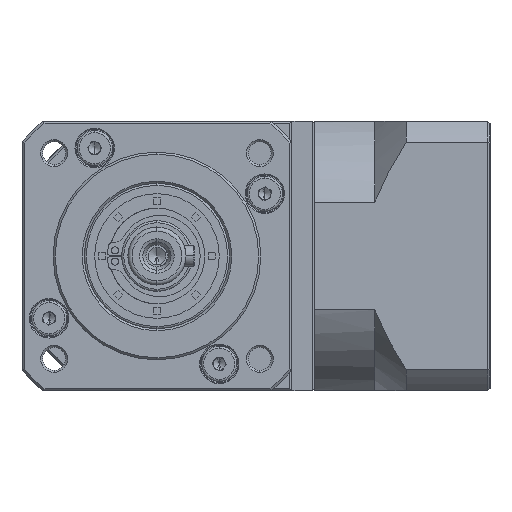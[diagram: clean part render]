
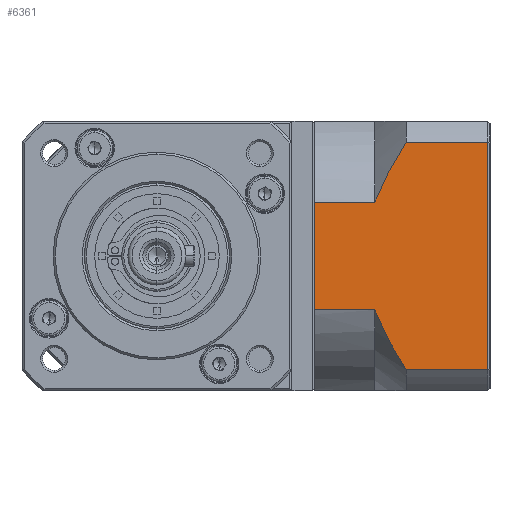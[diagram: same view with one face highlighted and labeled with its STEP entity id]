
A CAD part, left-side view. The second image highlights one B-rep face of the part: STEP entity #6361.
In plain terms, the highlighted planar face has unit normal (-1, 0, 0).
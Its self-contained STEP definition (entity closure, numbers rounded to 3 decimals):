
#1008 = PLANE ( 'NONE',  #156267 ) ;
#3505 = CARTESIAN_POINT ( 'NONE',  ( -9.591, -71.321, -142.833 ) ) ;
#5725 = DIRECTION ( 'NONE',  ( 0., 1., 0. ) ) ;
#6250 = DIRECTION ( 'NONE',  ( 1., 0., 0. ) ) ;
#6361 = ADVANCED_FACE ( 'NONE', ( #61652 ), #1008, .F. ) ;
#9164 = ORIENTED_EDGE ( 'NONE', *, *, #102245, .F. ) ;
#9384 = ORIENTED_EDGE ( 'NONE', *, *, #23752, .T. ) ;
#11514 = VERTEX_POINT ( 'NONE', #74486 ) ;
#19139 = CARTESIAN_POINT ( 'NONE',  ( -9.591, -98.283, -101.814 ) ) ;
#20305 = ORIENTED_EDGE ( 'NONE', *, *, #45740, .T. ) ;
#20426 = CARTESIAN_POINT ( 'NONE',  ( -9.591, -75.75, -106.438 ) ) ;
#23752 = EDGE_CURVE ( 'NONE', #63790, #148828, #33549, .T. ) ;
#29154 = CARTESIAN_POINT ( 'NONE',  ( -9.591, -78.583, -101.814 ) ) ;
#29298 = CARTESIAN_POINT ( 'NONE',  ( -9.591, -71.083, -142.19 ) ) ;
#29613 = LINE ( 'NONE', #94843, #93884 ) ;
#30135 = VECTOR ( 'NONE', #67531, 1000. ) ;
#31062 = DIRECTION ( 'NONE',  ( 0., 1., 0. ) ) ;
#33338 = CARTESIAN_POINT ( 'NONE',  ( -9.591, -73.17, -111.22 ) ) ;
#33429 = CARTESIAN_POINT ( 'NONE',  ( -9.591, -56.583, -116.21 ) ) ;
#33549 = B_SPLINE_CURVE_WITH_KNOTS ( 'NONE', 3,
 ( #29298, #3505, #119118, #42226, #132022, #55064, #145008, #67983, #158006, #80910 ),
 .UNSPECIFIED., .F., .F.,
 ( 4, 2, 2, 2, 4 ),
 ( 0.101, 0.103, 0.105, 0.109, 0.117 ),
 .UNSPECIFIED. ) ;
#37146 = VECTOR ( 'NONE', #5725, 1000. ) ;
#42226 = CARTESIAN_POINT ( 'NONE',  ( -9.591, -72.099, -144.733 ) ) ;
#44985 = CARTESIAN_POINT ( 'NONE',  ( -9.591, -71.083, -156.586 ) ) ;
#45646 = ORIENTED_EDGE ( 'NONE', *, *, #135291, .T. ) ;
#45740 = EDGE_CURVE ( 'NONE', #103985, #82981, #115557, .T. ) ;
#46285 = CARTESIAN_POINT ( 'NONE',  ( -9.591, -71.083, -116.21 ) ) ;
#47546 = CARTESIAN_POINT ( 'NONE',  ( -9.591, -77.85, -102.952 ) ) ;
#48282 = CARTESIAN_POINT ( 'NONE',  ( -9.591, -71.083, -142.19 ) ) ;
#51415 = VERTEX_POINT ( 'NONE', #165701 ) ;
#52147 = EDGE_LOOP ( 'NONE', ( #121101, #20305, #9164, #45646, #91713, #54423, #148277, #9384 ) ) ;
#54423 = ORIENTED_EDGE ( 'NONE', *, *, #129057, .T. ) ;
#55064 = CARTESIAN_POINT ( 'NONE',  ( -9.591, -73.224, -147.211 ) ) ;
#56846 = CARTESIAN_POINT ( 'NONE',  ( -9.591, -71.083, -142.19 ) ) ;
#60561 = LINE ( 'NONE', #56846, #120843 ) ;
#61652 = FACE_OUTER_BOUND ( 'NONE', #52147, .T. ) ;
#63790 = VERTEX_POINT ( 'NONE', #48282 ) ;
#67531 = DIRECTION ( 'NONE',  ( 0., -1., 0. ) ) ;
#67983 = CARTESIAN_POINT ( 'NONE',  ( -9.591, -75.734, -152.004 ) ) ;
#74486 = CARTESIAN_POINT ( 'NONE',  ( -9.591, -71.083, -116.21 ) ) ;
#75471 = VECTOR ( 'NONE', #151851, 1000. ) ;
#77688 = VERTEX_POINT ( 'NONE', #33429 ) ;
#80910 = CARTESIAN_POINT ( 'NONE',  ( -9.591, -78.583, -156.586 ) ) ;
#82981 = VERTEX_POINT ( 'NONE', #19139 ) ;
#83077 = CARTESIAN_POINT ( 'NONE',  ( -9.591, -98.783, -161.7 ) ) ;
#84436 = CARTESIAN_POINT ( 'NONE',  ( -9.591, -78.583, -101.814 ) ) ;
#91713 = ORIENTED_EDGE ( 'NONE', *, *, #104613, .F. ) ;
#93884 = VECTOR ( 'NONE', #107796, 1000. ) ;
#94235 = CARTESIAN_POINT ( 'NONE',  ( -9.591, -98.283, -156.586 ) ) ;
#94843 = CARTESIAN_POINT ( 'NONE',  ( -9.591, -56.583, -161.7 ) ) ;
#95971 = DIRECTION ( 'NONE',  ( 0., 1., 0. ) ) ;
#97338 = CARTESIAN_POINT ( 'NONE',  ( -9.591, -77.134, -104.103 ) ) ;
#102245 = EDGE_CURVE ( 'NONE', #122632, #82981, #143833, .T. ) ;
#102594 = EDGE_CURVE ( 'NONE', #103985, #148828, #135614, .T. ) ;
#103985 = VERTEX_POINT ( 'NONE', #94235 ) ;
#104613 = EDGE_CURVE ( 'NONE', #77688, #11514, #128631, .T. ) ;
#107796 = DIRECTION ( 'NONE',  ( 0., 0., -1. ) ) ;
#110291 = CARTESIAN_POINT ( 'NONE',  ( -9.591, -75.08, -107.624 ) ) ;
#112528 = EDGE_CURVE ( 'NONE', #63790, #51415, #60561, .T. ) ;
#115557 = LINE ( 'NONE', #123088, #149805 ) ;
#119118 = CARTESIAN_POINT ( 'NONE',  ( -9.591, -71.574, -143.471 ) ) ;
#120843 = VECTOR ( 'NONE', #31062, 1000. ) ;
#121101 = ORIENTED_EDGE ( 'NONE', *, *, #102594, .F. ) ;
#122554 = DIRECTION ( 'NONE',  ( 0., 0., 1. ) ) ;
#122632 = VERTEX_POINT ( 'NONE', #29154 ) ;
#123088 = CARTESIAN_POINT ( 'NONE',  ( -9.591, -98.283, -161.7 ) ) ;
#123207 = CARTESIAN_POINT ( 'NONE',  ( -9.591, -72.025, -113.672 ) ) ;
#128631 = LINE ( 'NONE', #144572, #30135 ) ;
#129057 = EDGE_CURVE ( 'NONE', #77688, #51415, #29613, .T. ) ;
#132022 = CARTESIAN_POINT ( 'NONE',  ( -9.591, -72.373, -145.357 ) ) ;
#135291 = EDGE_CURVE ( 'NONE', #122632, #11514, #140062, .T. ) ;
#135614 = LINE ( 'NONE', #44985, #37146 ) ;
#138928 = CARTESIAN_POINT ( 'NONE',  ( -9.591, -71.083, -101.814 ) ) ;
#140062 = B_SPLINE_CURVE_WITH_KNOTS ( 'NONE', 3,
 ( #84436, #47546, #97338, #20426, #110291, #33338, #123207, #46285 ),
 .UNSPECIFIED., .F., .F.,
 ( 4, 2, 2, 4 ),
 ( 0.058, 0.062, 0.066, 0.074 ),
 .UNSPECIFIED. ) ;
#143833 = LINE ( 'NONE', #138928, #75471 ) ;
#144572 = CARTESIAN_POINT ( 'NONE',  ( -9.591, -71.083, -116.21 ) ) ;
#145008 = CARTESIAN_POINT ( 'NONE',  ( -9.591, -73.829, -148.423 ) ) ;
#148277 = ORIENTED_EDGE ( 'NONE', *, *, #112528, .F. ) ;
#148828 = VERTEX_POINT ( 'NONE', #157554 ) ;
#149805 = VECTOR ( 'NONE', #122554, 1000. ) ;
#151851 = DIRECTION ( 'NONE',  ( 0., -1., 0. ) ) ;
#156267 = AXIS2_PLACEMENT_3D ( 'NONE', #83077, #6250, #95971 ) ;
#157554 = CARTESIAN_POINT ( 'NONE',  ( -9.591, -78.583, -156.586 ) ) ;
#158006 = CARTESIAN_POINT ( 'NONE',  ( -9.591, -77.121, -154.318 ) ) ;
#165701 = CARTESIAN_POINT ( 'NONE',  ( -9.591, -56.583, -142.19 ) ) ;
